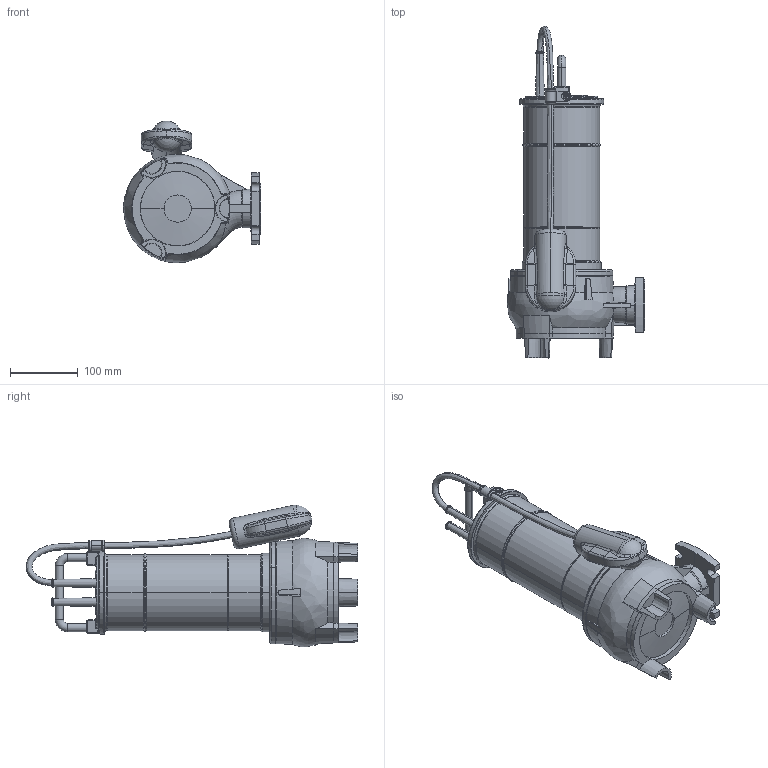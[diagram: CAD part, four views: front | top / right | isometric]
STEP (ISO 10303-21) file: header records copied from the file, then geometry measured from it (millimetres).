
FILE_DESCRIPTION (( 'STEP AP203' ), '1' );
FILE_NAME ('40FWX_04-06-07_G.STEP', '2026-06-12T08:19:06', ( '' ), ( '' ), 'SwSTEP 2.0', 'SolidWorks 2024', '' );
FILE_SCHEMA (( 'CONFIG_CONTROL_DESIGN' ));
Length unit declared in the file: millimetre
Products named in the file (1): 40FWX_04-06-07_G
Bounding box: 201.9 x 488.19 x 208.51 mm (x, y, z)
Volume: 4804077.9 mm3; surface area: 270442.2 mm2
Topology: 1 solids, 3 shells, 613 faces, 1481 edges, 889 vertices
Faces by surface type: plane 187, bspline 130, cylinder 111, cone 98, torus 70, sphere 17
Entity records: 25399 total; most frequent: CARTESIAN_POINT 11998, ORIENTED_EDGE 2934, DIRECTION 2593, EDGE_CURVE 1467, AXIS2_PLACEMENT_3D 1054, VERTEX_POINT 889, EDGE_LOOP 654, FACE_OUTER_BOUND 613
